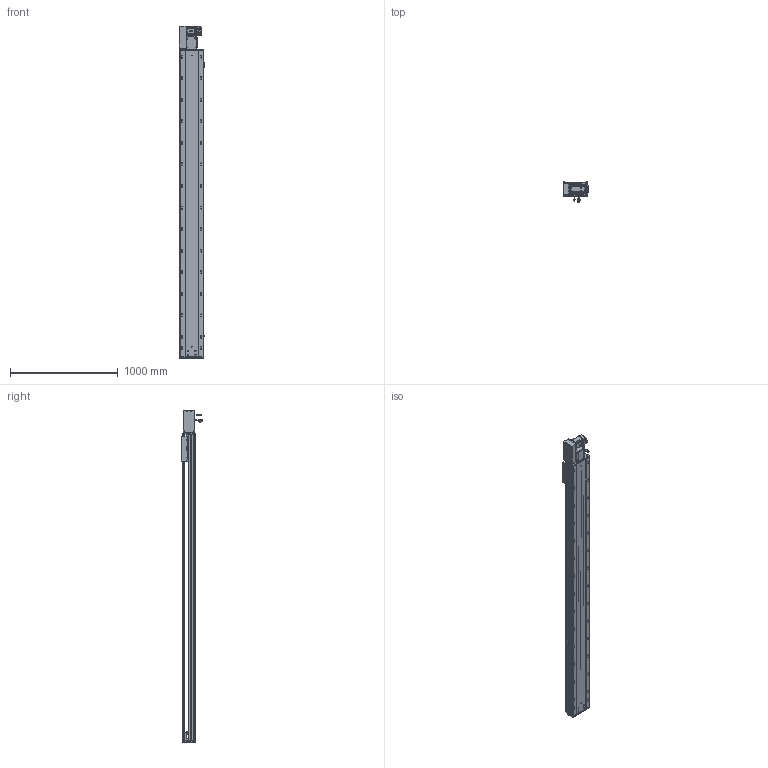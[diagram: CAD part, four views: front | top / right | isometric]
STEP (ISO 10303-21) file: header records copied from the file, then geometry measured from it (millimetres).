
FILE_DESCRIPTION (( 'STEP AP203' ), '1' );
FILE_NAME ('RY220-T-300-LK.SLDASM_2500.step', '2022-07-25T08:15:55', ( '' ), ( '' ), 'SwSTEP 2.0', 'SolidWorks 2016', '' );
FILE_SCHEMA (( 'CONFIG_CONTROL_DESIGN' ));
Length unit declared in the file: millimetre
Products named in the file (14): RY220-T-300-奻裔啣_2500; RY220-俋离672覜茼んえ; 覜茼ん672; RY220-T-蛌殏萇儂假蚾啣(750W); RY220-同步轮副支撑座6304×2; RY220翋肮祭謫裔啣; RY220翋肮祭謫釱; RY220-T-300-LK.SLDASM_2500; RY220-T-湍謫欶(鍼踢); RY220-T菁釱-300_2500; RY220圉猾敕々湍臏賑輸; 110A-T-肮祭謫釱傷裔; 怢湛750W_ECMA-CX0807ES; 滅袉蝶18-15
Assembly tree (18 placements, depth 2):
  RY220-T-300-LK.SLDASM_2500
    RY220-T菁釱-300_2500
    RY220翋肮祭謫釱
    覜茼ん672  x3
    RY220圉猾敕々湍臏賑輸
    RY220-T-300-奻裔啣_2500
    RY220-俋离672覜茼んえ
    滅袉蝶18-15  x3
    RY220翋肮祭謫裔啣  x2
    110A-T-肮祭謫釱傷裔
    怢湛750W_ECMA-CX0807ES
    RY220-T-湍謫欶(鍼踢)
    RY220-T-蛌殏萇儂假蚾啣(750W)
    RY220-同步轮副支撑座6304×2
Bounding box: 239.7 x 198.77 x 3079 mm (x, y, z)
Volume: 21965765.5 mm3; surface area: 6744922.3 mm2
Topology: 19 solids, 19 shells, 2936 faces, 8119 edges, 5096 vertices
Faces by surface type: cylinder 1436, plane 1069, cone 349, bspline 56, sphere 16, torus 10
Entity records: 97891 total; most frequent: CARTESIAN_POINT 27671, ORIENTED_EDGE 14522, DIRECTION 13972, EDGE_CURVE 7261, AXIS2_PLACEMENT_3D 5026, VERTEX_POINT 4720, VECTOR 3920, LINE 3920
